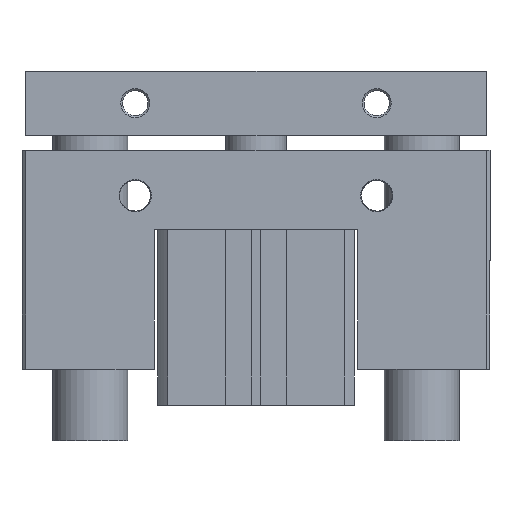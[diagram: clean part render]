
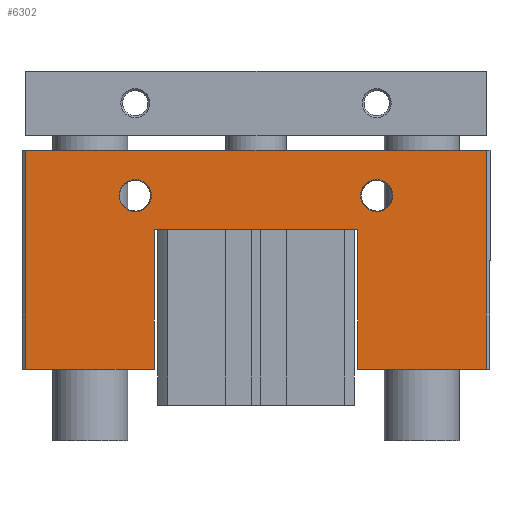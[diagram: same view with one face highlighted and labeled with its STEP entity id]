
A CAD part, front view. The second image highlights one B-rep face of the part: STEP entity #6302.
In plain terms, the highlighted planar face has unit normal (0, -1, 0).
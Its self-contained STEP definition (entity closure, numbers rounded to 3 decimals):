
#1027=CARTESIAN_POINT('',(-60.402,-25.945,67.5));
#1028=VERTEX_POINT('',#1027);
#1035=CARTESIAN_POINT('',(61.598,-25.945,67.5));
#1036=VERTEX_POINT('',#1035);
#1037=CARTESIAN_POINT('',(-60.402,-25.945,67.5));
#1038=DIRECTION('',(1.0,0.0,0.0));
#1039=VECTOR('',#1038,122.);
#1040=LINE('',#1037,#1039);
#1041=EDGE_CURVE('',#1028,#1036,#1040,.T.);
#2137=CARTESIAN_POINT('',(-60.402,-25.945,9.5));
#2138=VERTEX_POINT('',#2137);
#2145=CARTESIAN_POINT('',(-60.402,-25.945,9.5));
#2146=DIRECTION('',(0.0,0.0,1.0));
#2147=VECTOR('',#2146,58.);
#2148=LINE('',#2145,#2147);
#2149=EDGE_CURVE('',#2138,#1028,#2148,.T.);
#2159=CARTESIAN_POINT('',(61.598,-25.945,9.5));
#2160=VERTEX_POINT('',#2159);
#2169=CARTESIAN_POINT('',(61.598,-25.945,67.5));
#2170=DIRECTION('',(0.0,0.0,-1.0));
#2171=VECTOR('',#2170,58.);
#2172=LINE('',#2169,#2171);
#2173=EDGE_CURVE('',#1036,#2160,#2172,.T.);
#2334=CARTESIAN_POINT('',(28.348,-25.945,55.5));
#2335=VERTEX_POINT('',#2334);
#2336=CARTESIAN_POINT('',(32.598,-25.945,55.5));
#2337=DIRECTION('',(0.0,1.0,0.0));
#2338=DIRECTION('',(1.0,0.0,0.0));
#2339=AXIS2_PLACEMENT_3D('',#2336,#2337,#2338);
#2340=CIRCLE('',#2339,4.25);
#2341=EDGE_CURVE('',#2335,#2335,#2340,.T.);
#2413=CARTESIAN_POINT('',(-35.652,-25.945,55.5));
#2414=VERTEX_POINT('',#2413);
#2415=CARTESIAN_POINT('',(-31.402,-25.945,55.5));
#2416=DIRECTION('',(0.0,1.0,0.0));
#2417=DIRECTION('',(1.0,0.0,0.0));
#2418=AXIS2_PLACEMENT_3D('',#2415,#2416,#2417);
#2419=CIRCLE('',#2418,4.25);
#2420=EDGE_CURVE('',#2414,#2414,#2419,.T.);
#6248=CARTESIAN_POINT('',(0.598,-25.945,41.288));
#6249=DIRECTION('',(0.0,1.0,0.0));
#6250=DIRECTION('',(0.0,0.0,1.0));
#6251=AXIS2_PLACEMENT_3D('',#6248,#6249,#6250);
#6252=PLANE('',#6251);
#6253=ORIENTED_EDGE('',*,*,#2149,.F.);
#6254=CARTESIAN_POINT('',(-26.402,-25.945,9.5));
#6255=VERTEX_POINT('',#6254);
#6256=CARTESIAN_POINT('',(-26.402,-25.945,9.5));
#6257=DIRECTION('',(-1.0,0.0,0.0));
#6258=VECTOR('',#6257,34.);
#6259=LINE('',#6256,#6258);
#6260=EDGE_CURVE('',#6255,#2138,#6259,.T.);
#6261=ORIENTED_EDGE('',*,*,#6260,.F.);
#6262=CARTESIAN_POINT('',(-26.402,-25.945,46.5));
#6263=VERTEX_POINT('',#6262);
#6264=CARTESIAN_POINT('',(-26.402,-25.945,46.5));
#6265=DIRECTION('',(0.0,0.0,-1.0));
#6266=VECTOR('',#6265,37.);
#6267=LINE('',#6264,#6266);
#6268=EDGE_CURVE('',#6263,#6255,#6267,.T.);
#6269=ORIENTED_EDGE('',*,*,#6268,.F.);
#6270=CARTESIAN_POINT('',(27.598,-25.945,46.5));
#6271=VERTEX_POINT('',#6270);
#6272=CARTESIAN_POINT('',(27.598,-25.945,46.5));
#6273=DIRECTION('',(-1.0,0.0,0.0));
#6274=VECTOR('',#6273,54.0);
#6275=LINE('',#6272,#6274);
#6276=EDGE_CURVE('',#6271,#6263,#6275,.T.);
#6277=ORIENTED_EDGE('',*,*,#6276,.F.);
#6278=CARTESIAN_POINT('',(27.598,-25.945,9.5));
#6279=VERTEX_POINT('',#6278);
#6280=CARTESIAN_POINT('',(27.598,-25.945,9.5));
#6281=DIRECTION('',(0.0,0.0,1.0));
#6282=VECTOR('',#6281,37.);
#6283=LINE('',#6280,#6282);
#6284=EDGE_CURVE('',#6279,#6271,#6283,.T.);
#6285=ORIENTED_EDGE('',*,*,#6284,.F.);
#6286=CARTESIAN_POINT('',(61.598,-25.945,9.5));
#6287=DIRECTION('',(-1.0,0.0,0.0));
#6288=VECTOR('',#6287,34.0);
#6289=LINE('',#6286,#6288);
#6290=EDGE_CURVE('',#2160,#6279,#6289,.T.);
#6291=ORIENTED_EDGE('',*,*,#6290,.F.);
#6292=ORIENTED_EDGE('',*,*,#2173,.F.);
#6293=ORIENTED_EDGE('',*,*,#1041,.F.);
#6294=EDGE_LOOP('',(#6253,#6261,#6269,#6277,#6285,#6291,#6292,#6293));
#6295=FACE_OUTER_BOUND('',#6294,.T.);
#6296=ORIENTED_EDGE('',*,*,#2341,.T.);
#6297=EDGE_LOOP('',(#6296));
#6298=FACE_BOUND('',#6297,.T.);
#6299=ORIENTED_EDGE('',*,*,#2420,.T.);
#6300=EDGE_LOOP('',(#6299));
#6301=FACE_BOUND('',#6300,.T.);
#6302=ADVANCED_FACE('',(#6295,#6298,#6301),#6252,.F.);
